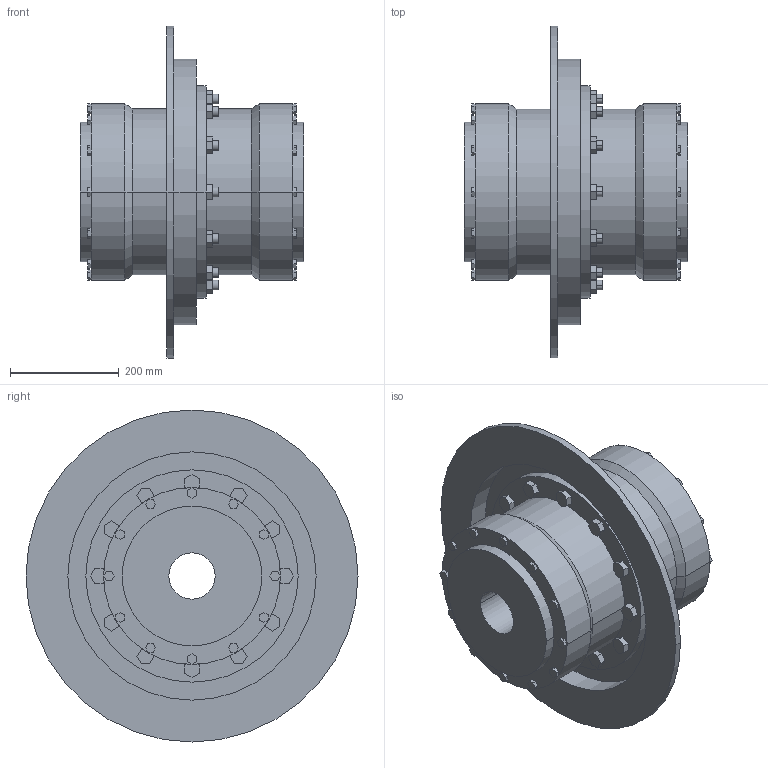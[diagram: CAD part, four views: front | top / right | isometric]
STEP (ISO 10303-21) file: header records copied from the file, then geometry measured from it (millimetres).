
FILE_DESCRIPTION((''),'2;1');
FILE_NAME('A19101700-0_ASM','2019-05-23T',('AB_Roschiwal'),('RENK AG'),'PRO/ENGINEER BY PARAMETRIC TECHNOLOGY CORPORATION, 2015440','PRO/ENGINEER BY PARAMETRIC TECHNOLOGY CORPORATION, 2015440','');
FILE_SCHEMA(('CONFIG_CONTROL_DESIGN'));
Length unit declared in the file: millimetre
Products named in the file (4): SBKT160_GEHAEUSE; SBKT160_NABE; SBKT160_BREMSSCHEIBE; A19101700-0_ASM
Assembly tree (4 placements, depth 2):
  A19101700-0_ASM
    SBKT160_GEHAEUSE
    SBKT160_NABE  x2
    SBKT160_BREMSSCHEIBE
Bounding box: 411 x 610 x 610 mm (x, y, z)
Volume: 30662337.6 mm3; surface area: 2238436 mm2
Topology: 4 solids, 4 shells, 470 faces, 1156 edges, 768 vertices
Faces by surface type: plane 370, cylinder 96, cone 4
Entity records: 13604 total; most frequent: CARTESIAN_POINT 2350, ORIENTED_EDGE 2264, DIRECTION 2240, EDGE_CURVE 1132, VECTOR 956, LINE 956, VERTEX_POINT 752, AXIS2_PLACEMENT_3D 642
